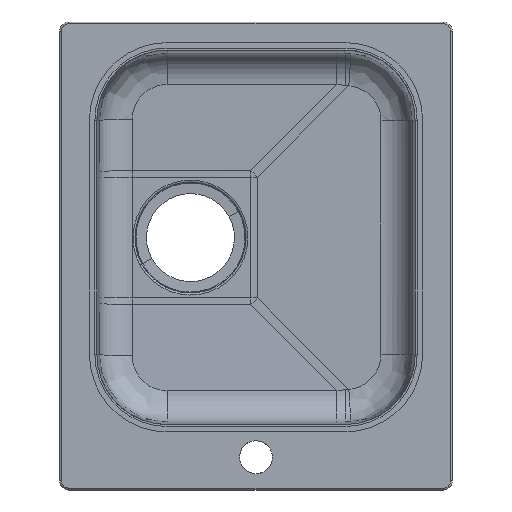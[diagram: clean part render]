
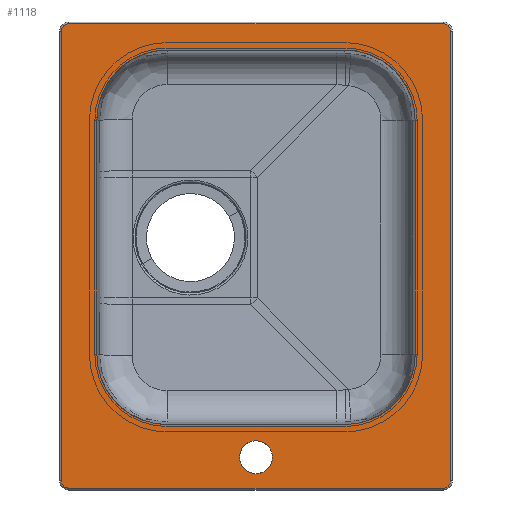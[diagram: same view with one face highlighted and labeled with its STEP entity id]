
A CAD part, top view. The second image highlights one B-rep face of the part: STEP entity #1118.
In plain terms, the highlighted planar face has unit normal (0, 0, 1).
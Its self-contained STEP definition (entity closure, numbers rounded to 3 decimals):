
#252=CARTESIAN_POINT('Vertex',(208.,-240.,0.)) ;
#259=CARTESIAN_POINT('Vertex',(208.,240.,0.)) ;
#262=CARTESIAN_POINT('Line Origine',(208.,0.,0.)) ;
#283=CARTESIAN_POINT('Vertex',(200.,248.,0.)) ;
#286=CARTESIAN_POINT('Axis2P3D Location',(200.,240.,0.)) ;
#314=CARTESIAN_POINT('Vertex',(-200.,248.,0.)) ;
#317=CARTESIAN_POINT('Line Origine',(0.,248.,0.)) ;
#588=CARTESIAN_POINT('Axis2P3D Location',(200.,-240.,0.)) ;
#592=CARTESIAN_POINT('Vertex',(200.,-248.,0.)) ;
#619=CARTESIAN_POINT('Line Origine',(0.,-248.,0.)) ;
#623=CARTESIAN_POINT('Vertex',(-200.,-248.,0.)) ;
#916=CARTESIAN_POINT('Line Origine',(-170.,20.,0.)) ;
#920=CARTESIAN_POINT('Vertex',(-170.,-105.,0.)) ;
#922=CARTESIAN_POINT('Vertex',(-170.,145.,0.)) ;
#947=CARTESIAN_POINT('Axis2P3D Location',(-95.,145.,0.)) ;
#951=CARTESIAN_POINT('Vertex',(-95.,220.,0.)) ;
#971=CARTESIAN_POINT('Line Origine',(0.,220.,0.)) ;
#975=CARTESIAN_POINT('Vertex',(95.,220.,0.)) ;
#995=CARTESIAN_POINT('Axis2P3D Location',(95.,145.,0.)) ;
#999=CARTESIAN_POINT('Vertex',(170.,145.,0.)) ;
#1014=CARTESIAN_POINT('Axis2P3D Location',(0.,0.,0.)) ;
#1019=CARTESIAN_POINT('Axis2P3D Location',(-200.,240.,0.)) ;
#1023=CARTESIAN_POINT('Vertex',(-208.,240.,0.)) ;
#1026=CARTESIAN_POINT('Line Origine',(-208.,0.,0.)) ;
#1030=CARTESIAN_POINT('Vertex',(-208.,-240.,0.)) ;
#1033=CARTESIAN_POINT('Axis2P3D Location',(-200.,-240.,0.)) ;
#1048=CARTESIAN_POINT('Axis2P3D Location',(95.,-105.,0.)) ;
#1052=CARTESIAN_POINT('Vertex',(95.,-180.,0.)) ;
#1054=CARTESIAN_POINT('Vertex',(170.,-105.,0.)) ;
#1057=CARTESIAN_POINT('Line Origine',(0.,-180.,0.)) ;
#1061=CARTESIAN_POINT('Vertex',(-95.,-180.,0.)) ;
#1064=CARTESIAN_POINT('Axis2P3D Location',(-95.,-105.,0.)) ;
#1069=CARTESIAN_POINT('Line Origine',(170.,20.,0.)) ;
#1084=CARTESIAN_POINT('Axis2P3D Location',(0.,-215.,0.)) ;
#1088=CARTESIAN_POINT('Vertex',(-17.5,-215.,0.)) ;
#1090=CARTESIAN_POINT('Vertex',(0.,-232.5,0.)) ;
#1093=CARTESIAN_POINT('Axis2P3D Location',(0.,-215.,0.)) ;
#1097=CARTESIAN_POINT('Vertex',(0.,-197.5,0.)) ;
#1100=CARTESIAN_POINT('Axis2P3D Location',(0.,-215.,0.)) ;
#1104=CARTESIAN_POINT('Vertex',(17.5,-215.,0.)) ;
#1107=CARTESIAN_POINT('Axis2P3D Location',(0.,-215.,0.)) ;
#263=DIRECTION('Vector Direction',(0.,1.,0.)) ;
#287=DIRECTION('Axis2P3D Direction',(0.,0.,1.)) ;
#318=DIRECTION('Vector Direction',(-1.,0.,0.)) ;
#589=DIRECTION('Axis2P3D Direction',(0.,0.,1.)) ;
#620=DIRECTION('Vector Direction',(1.,0.,0.)) ;
#917=DIRECTION('Vector Direction',(0.,1.,0.)) ;
#948=DIRECTION('Axis2P3D Direction',(0.,0.,1.)) ;
#972=DIRECTION('Vector Direction',(1.,0.,0.)) ;
#996=DIRECTION('Axis2P3D Direction',(0.,0.,1.)) ;
#1015=DIRECTION('Axis2P3D Direction',(0.,0.,1.)) ;
#1016=DIRECTION('Axis2P3D XDirection',(1.,0.,0.)) ;
#1020=DIRECTION('Axis2P3D Direction',(0.,0.,1.)) ;
#1027=DIRECTION('Vector Direction',(0.,1.,0.)) ;
#1034=DIRECTION('Axis2P3D Direction',(0.,0.,1.)) ;
#1049=DIRECTION('Axis2P3D Direction',(0.,0.,1.)) ;
#1058=DIRECTION('Vector Direction',(1.,0.,0.)) ;
#1065=DIRECTION('Axis2P3D Direction',(0.,0.,1.)) ;
#1070=DIRECTION('Vector Direction',(0.,1.,0.)) ;
#1085=DIRECTION('Axis2P3D Direction',(0.,0.,1.)) ;
#1094=DIRECTION('Axis2P3D Direction',(0.,0.,1.)) ;
#1101=DIRECTION('Axis2P3D Direction',(0.,0.,1.)) ;
#1108=DIRECTION('Axis2P3D Direction',(0.,0.,1.)) ;
#288=AXIS2_PLACEMENT_3D('Circle Axis2P3D',#286,#287,$) ;
#590=AXIS2_PLACEMENT_3D('Circle Axis2P3D',#588,#589,$) ;
#949=AXIS2_PLACEMENT_3D('Circle Axis2P3D',#947,#948,$) ;
#997=AXIS2_PLACEMENT_3D('Circle Axis2P3D',#995,#996,$) ;
#1017=AXIS2_PLACEMENT_3D('Plane Axis2P3D',#1014,#1015,#1016) ;
#1021=AXIS2_PLACEMENT_3D('Circle Axis2P3D',#1019,#1020,$) ;
#1035=AXIS2_PLACEMENT_3D('Circle Axis2P3D',#1033,#1034,$) ;
#1050=AXIS2_PLACEMENT_3D('Circle Axis2P3D',#1048,#1049,$) ;
#1066=AXIS2_PLACEMENT_3D('Circle Axis2P3D',#1064,#1065,$) ;
#1086=AXIS2_PLACEMENT_3D('Circle Axis2P3D',#1084,#1085,$) ;
#1095=AXIS2_PLACEMENT_3D('Circle Axis2P3D',#1093,#1094,$) ;
#1102=AXIS2_PLACEMENT_3D('Circle Axis2P3D',#1100,#1101,$) ;
#1109=AXIS2_PLACEMENT_3D('Circle Axis2P3D',#1107,#1108,$) ;
#1039=ORIENTED_EDGE('',*,*,#594,.T.) ;
#1040=ORIENTED_EDGE('',*,*,#266,.F.) ;
#1041=ORIENTED_EDGE('',*,*,#290,.T.) ;
#1042=ORIENTED_EDGE('',*,*,#321,.F.) ;
#1043=ORIENTED_EDGE('',*,*,#1025,.T.) ;
#1044=ORIENTED_EDGE('',*,*,#1032,.F.) ;
#1045=ORIENTED_EDGE('',*,*,#1037,.T.) ;
#1046=ORIENTED_EDGE('',*,*,#625,.F.) ;
#1075=ORIENTED_EDGE('',*,*,#1056,.F.) ;
#1076=ORIENTED_EDGE('',*,*,#1063,.F.) ;
#1077=ORIENTED_EDGE('',*,*,#1068,.F.) ;
#1078=ORIENTED_EDGE('',*,*,#924,.T.) ;
#1079=ORIENTED_EDGE('',*,*,#953,.F.) ;
#1080=ORIENTED_EDGE('',*,*,#977,.T.) ;
#1081=ORIENTED_EDGE('',*,*,#1001,.F.) ;
#1082=ORIENTED_EDGE('',*,*,#1073,.F.) ;
#1113=ORIENTED_EDGE('',*,*,#1092,.F.) ;
#1114=ORIENTED_EDGE('',*,*,#1099,.F.) ;
#1115=ORIENTED_EDGE('',*,*,#1106,.F.) ;
#1116=ORIENTED_EDGE('',*,*,#1111,.F.) ;
#1083=FACE_BOUND('',#1074,.T.) ;
#1117=FACE_BOUND('',#1112,.T.) ;
#264=VECTOR('Line Direction',#263,1.) ;
#319=VECTOR('Line Direction',#318,1.) ;
#621=VECTOR('Line Direction',#620,1.) ;
#918=VECTOR('Line Direction',#917,1.) ;
#973=VECTOR('Line Direction',#972,1.) ;
#1028=VECTOR('Line Direction',#1027,1.) ;
#1059=VECTOR('Line Direction',#1058,1.) ;
#1071=VECTOR('Line Direction',#1070,1.) ;
#1118=ADVANCED_FACE('PartBody',(#1047,#1083,#1117),#1018,.T.) ;
#289=CIRCLE('generated circle',#288,8.) ;
#591=CIRCLE('generated circle',#590,8.) ;
#950=CIRCLE('generated circle',#949,75.) ;
#998=CIRCLE('generated circle',#997,75.) ;
#1022=CIRCLE('generated circle',#1021,8.) ;
#1036=CIRCLE('generated circle',#1035,8.) ;
#1051=CIRCLE('generated circle',#1050,75.) ;
#1067=CIRCLE('generated circle',#1066,75.) ;
#1087=CIRCLE('generated circle',#1086,17.5) ;
#1096=CIRCLE('generated circle',#1095,17.5) ;
#1103=CIRCLE('generated circle',#1102,17.5) ;
#1110=CIRCLE('generated circle',#1109,17.5) ;
#266=EDGE_CURVE('',#260,#253,#265,.F.) ;
#290=EDGE_CURVE('',#260,#284,#289,.T.) ;
#321=EDGE_CURVE('',#315,#284,#320,.F.) ;
#594=EDGE_CURVE('',#593,#253,#591,.T.) ;
#625=EDGE_CURVE('',#593,#624,#622,.F.) ;
#924=EDGE_CURVE('',#921,#923,#919,.T.) ;
#953=EDGE_CURVE('',#952,#923,#950,.T.) ;
#977=EDGE_CURVE('',#952,#976,#974,.T.) ;
#1001=EDGE_CURVE('',#1000,#976,#998,.T.) ;
#1025=EDGE_CURVE('',#315,#1024,#1022,.T.) ;
#1032=EDGE_CURVE('',#1031,#1024,#1029,.T.) ;
#1037=EDGE_CURVE('',#1031,#624,#1036,.T.) ;
#1056=EDGE_CURVE('',#1053,#1055,#1051,.T.) ;
#1063=EDGE_CURVE('',#1062,#1053,#1060,.T.) ;
#1068=EDGE_CURVE('',#921,#1062,#1067,.T.) ;
#1073=EDGE_CURVE('',#1055,#1000,#1072,.T.) ;
#1092=EDGE_CURVE('',#1089,#1091,#1087,.T.) ;
#1099=EDGE_CURVE('',#1098,#1089,#1096,.T.) ;
#1106=EDGE_CURVE('',#1105,#1098,#1103,.T.) ;
#1111=EDGE_CURVE('',#1091,#1105,#1110,.T.) ;
#1038=EDGE_LOOP('',(#1039,#1040,#1041,#1042,#1043,#1044,#1045,#1046)) ;
#1074=EDGE_LOOP('',(#1075,#1076,#1077,#1078,#1079,#1080,#1081,#1082)) ;
#1112=EDGE_LOOP('',(#1113,#1114,#1115,#1116)) ;
#1047=FACE_OUTER_BOUND('',#1038,.T.) ;
#265=LINE('Line',#262,#264) ;
#320=LINE('Line',#317,#319) ;
#622=LINE('Line',#619,#621) ;
#919=LINE('Line',#916,#918) ;
#974=LINE('Line',#971,#973) ;
#1029=LINE('Line',#1026,#1028) ;
#1060=LINE('Line',#1057,#1059) ;
#1072=LINE('Line',#1069,#1071) ;
#1018=PLANE('',#1017) ;
#253=VERTEX_POINT('',#252) ;
#260=VERTEX_POINT('',#259) ;
#284=VERTEX_POINT('',#283) ;
#315=VERTEX_POINT('',#314) ;
#593=VERTEX_POINT('',#592) ;
#624=VERTEX_POINT('',#623) ;
#921=VERTEX_POINT('',#920) ;
#923=VERTEX_POINT('',#922) ;
#952=VERTEX_POINT('',#951) ;
#976=VERTEX_POINT('',#975) ;
#1000=VERTEX_POINT('',#999) ;
#1024=VERTEX_POINT('',#1023) ;
#1031=VERTEX_POINT('',#1030) ;
#1053=VERTEX_POINT('',#1052) ;
#1055=VERTEX_POINT('',#1054) ;
#1062=VERTEX_POINT('',#1061) ;
#1089=VERTEX_POINT('',#1088) ;
#1091=VERTEX_POINT('',#1090) ;
#1098=VERTEX_POINT('',#1097) ;
#1105=VERTEX_POINT('',#1104) ;
